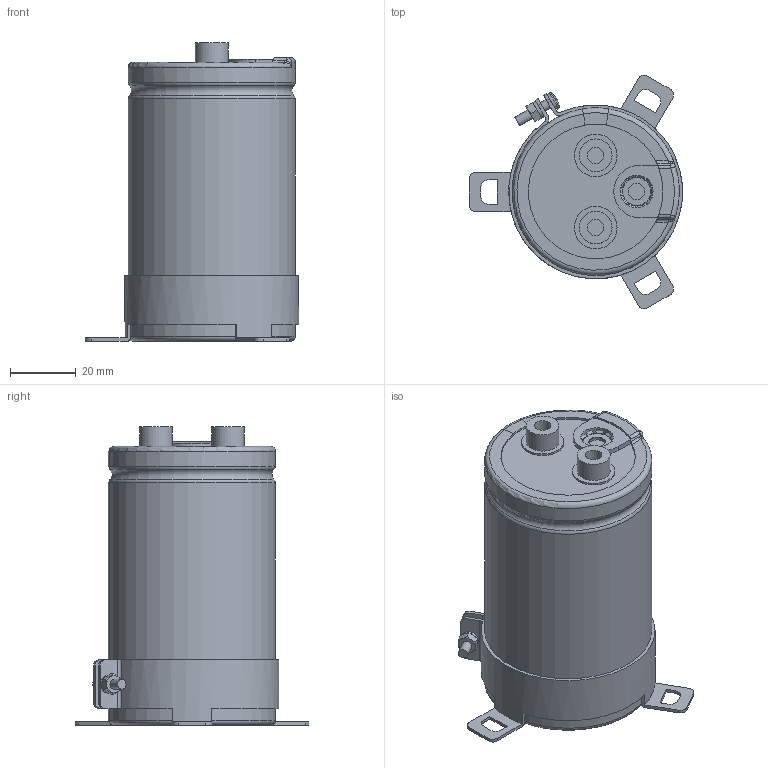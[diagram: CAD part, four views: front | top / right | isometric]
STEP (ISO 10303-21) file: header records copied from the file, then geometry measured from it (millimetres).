
FILE_DESCRIPTION(/* description */ (''),/* implementation_level */ '2;1');
FILE_NAME(/* name */ '51x85_Screw.stp',/* time_stamp */ '2017-09-15T13:42:58+09:00',/* author */ (''),/* organization */ (''),/* preprocessor_version */ 'ST-DEVELOPER v16',/* originating_system */ 'SIEMENS PLM Software NX 11.0',/* authorisation */ '');
FILE_SCHEMA (('AUTOMOTIVE_DESIGN { 1 0 10303 214 3 1 1 1 }'));
Length unit declared in the file: millimetre
Products named in the file (1): 51x85_Screw
Bounding box: 65 x 71.22 x 91 mm (x, y, z)
Volume: 175625.3 mm3; surface area: 55201.3 mm2
Topology: 9 solids, 9 shells, 298 faces, 744 edges, 471 vertices
Faces by surface type: plane 118, cylinder 78, torus 54, cone 31, bspline 12, sphere 5
Full cylindrical faces by diameter (mm): 3 x5, 5 x6, 5.5 x2, 10 x4, 13 x2, 49.8 x2
Entity records: 10562 total; most frequent: CARTESIAN_POINT 3129, DIRECTION 1450, ORIENTED_EDGE 1410, EDGE_CURVE 705, AXIS2_PLACEMENT_3D 606, VERTEX_POINT 464, EDGE_LOOP 353, CIRCLE 319
